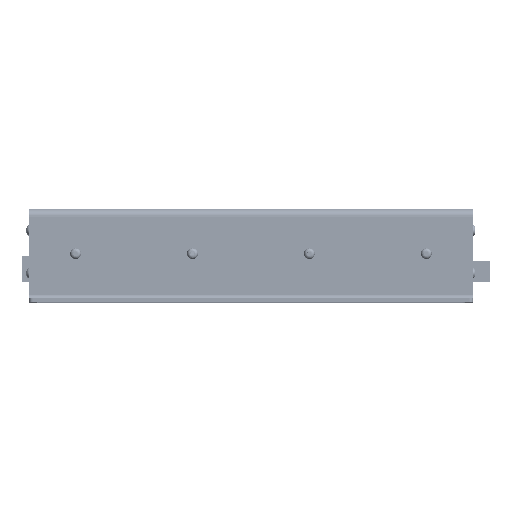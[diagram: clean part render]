
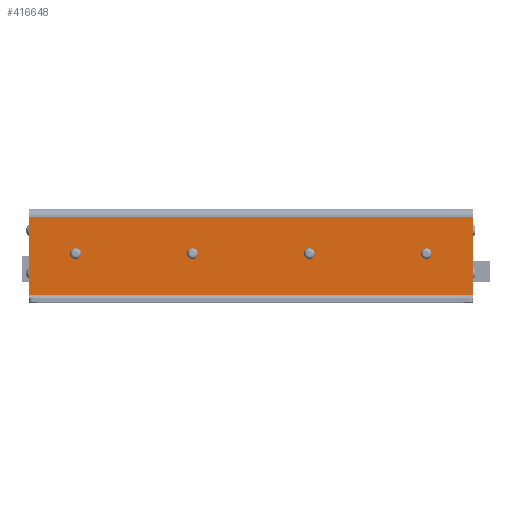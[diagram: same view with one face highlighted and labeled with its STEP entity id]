
A CAD part, top view. The second image highlights one B-rep face of the part: STEP entity #416648.
In plain terms, the highlighted planar face has unit normal (0, 0, 1).
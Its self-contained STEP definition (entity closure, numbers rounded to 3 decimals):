
#1815 = VERTEX_POINT ( 'NONE', #254683 ) ;
#4690 = EDGE_CURVE ( 'NONE', #171025, #122350, #275680, .T. ) ;
#11469 = FACE_BOUND ( 'NONE', #69404, .T. ) ;
#12023 = VECTOR ( 'NONE', #50916, 1000. ) ;
#12060 = FACE_OUTER_BOUND ( 'NONE', #216137, .T. ) ;
#28773 = AXIS2_PLACEMENT_3D ( 'NONE', #102801, #65374, #493511 ) ;
#32051 = DIRECTION ( 'NONE',  ( 0., 0., -1. ) ) ;
#47716 = EDGE_CURVE ( 'NONE', #289298, #122350, #200852, .T. ) ;
#47808 = EDGE_CURVE ( 'NONE', #449049, #289298, #78868, .T. ) ;
#48344 = DIRECTION ( 'NONE',  ( -1., 0., 0. ) ) ;
#50916 = DIRECTION ( 'NONE',  ( -1., 0., 0. ) ) ;
#58314 = EDGE_CURVE ( 'NONE', #482984, #308658, #279756, .T. ) ;
#65374 = DIRECTION ( 'NONE',  ( 0., 0., -1. ) ) ;
#69404 = EDGE_LOOP ( 'NONE', ( #252004, #407421 ) ) ;
#71451 = AXIS2_PLACEMENT_3D ( 'NONE', #364969, #478842, #285196 ) ;
#73041 = CARTESIAN_POINT ( 'NONE',  ( -88.25, -23., 86.5 ) ) ;
#73707 = CARTESIAN_POINT ( 'NONE',  ( -28.25, -23., 86.5 ) ) ;
#78868 = LINE ( 'NONE', #438346, #12023 ) ;
#95356 = CARTESIAN_POINT ( 'NONE',  ( -30., -23., 86.5 ) ) ;
#102801 = CARTESIAN_POINT ( 'NONE',  ( -90., -23., 86.5 ) ) ;
#106444 = AXIS2_PLACEMENT_3D ( 'NONE', #292268, #353032, #242552 ) ;
#111272 = CARTESIAN_POINT ( 'NONE',  ( -114., -44., 86.5 ) ) ;
#112464 = DIRECTION ( 'NONE',  ( 0., 0., 1. ) ) ;
#113128 = AXIS2_PLACEMENT_3D ( 'NONE', #207817, #331671, #175424 ) ;
#122350 = VERTEX_POINT ( 'NONE', #134757 ) ;
#131164 = CIRCLE ( 'NONE', #28773, 1.75 ) ;
#133970 = ORIENTED_EDGE ( 'NONE', *, *, #47808, .F. ) ;
#134757 = CARTESIAN_POINT ( 'NONE',  ( -114., -4., 86.5 ) ) ;
#137089 = ORIENTED_EDGE ( 'NONE', *, *, #188359, .F. ) ;
#139048 = EDGE_CURVE ( 'NONE', #441286, #1815, #310114, .T. ) ;
#150129 = CARTESIAN_POINT ( 'NONE',  ( 30., -23., 86.5 ) ) ;
#152916 = CARTESIAN_POINT ( 'NONE',  ( -31.75, -23., 86.5 ) ) ;
#153205 = AXIS2_PLACEMENT_3D ( 'NONE', #150129, #308024, #267313 ) ;
#153503 = LINE ( 'NONE', #501001, #403090 ) ;
#164284 = FACE_BOUND ( 'NONE', #330906, .T. ) ;
#165647 = CARTESIAN_POINT ( 'NONE',  ( 0., -4., 86.5 ) ) ;
#171025 = VERTEX_POINT ( 'NONE', #409149 ) ;
#175424 = DIRECTION ( 'NONE',  ( -1., 0., 0. ) ) ;
#183172 = CARTESIAN_POINT ( 'NONE',  ( 91.75, -23., 86.5 ) ) ;
#188359 = EDGE_CURVE ( 'NONE', #171025, #449049, #153503, .T. ) ;
#190690 = CIRCLE ( 'NONE', #71451, 1.75 ) ;
#190735 = VERTEX_POINT ( 'NONE', #249815 ) ;
#194643 = AXIS2_PLACEMENT_3D ( 'NONE', #500857, #32051, #417786 ) ;
#200852 = LINE ( 'NONE', #282066, #279793 ) ;
#206006 = CARTESIAN_POINT ( 'NONE',  ( 114., -44., 86.5 ) ) ;
#207301 = DIRECTION ( 'NONE',  ( 0., 1., 0. ) ) ;
#207817 = CARTESIAN_POINT ( 'NONE',  ( 90., -23., 86.5 ) ) ;
#214282 = DIRECTION ( 'NONE',  ( -1., 0., 0. ) ) ;
#216137 = EDGE_LOOP ( 'NONE', ( #137089, #345818, #231096, #133970 ) ) ;
#218872 = FACE_BOUND ( 'NONE', #269924, .T. ) ;
#226949 = VECTOR ( 'NONE', #48344, 1000. ) ;
#227014 = ORIENTED_EDGE ( 'NONE', *, *, #58314, .T. ) ;
#229274 = DIRECTION ( 'NONE',  ( 0., -1., 0. ) ) ;
#231096 = ORIENTED_EDGE ( 'NONE', *, *, #47716, .F. ) ;
#234411 = EDGE_CURVE ( 'NONE', #272015, #430588, #316264, .T. ) ;
#239511 = EDGE_CURVE ( 'NONE', #1815, #441286, #359455, .T. ) ;
#239684 = EDGE_LOOP ( 'NONE', ( #492258, #260579 ) ) ;
#241935 = AXIS2_PLACEMENT_3D ( 'NONE', #318507, #439136, #279496 ) ;
#242552 = DIRECTION ( 'NONE',  ( -1., 0., 0. ) ) ;
#247579 = DIRECTION ( 'NONE',  ( 0., -1., 0. ) ) ;
#249815 = CARTESIAN_POINT ( 'NONE',  ( 28.25, -23., 86.5 ) ) ;
#252004 = ORIENTED_EDGE ( 'NONE', *, *, #234411, .T. ) ;
#252953 = EDGE_CURVE ( 'NONE', #308658, #482984, #190690, .T. ) ;
#254683 = CARTESIAN_POINT ( 'NONE',  ( 88.25, -23., 86.5 ) ) ;
#254987 = DIRECTION ( 'NONE',  ( 0., 0., -1. ) ) ;
#260579 = ORIENTED_EDGE ( 'NONE', *, *, #438642, .T. ) ;
#267313 = DIRECTION ( 'NONE',  ( -1., 0., 0. ) ) ;
#269924 = EDGE_LOOP ( 'NONE', ( #358345, #227014 ) ) ;
#272015 = VERTEX_POINT ( 'NONE', #73041 ) ;
#275680 = LINE ( 'NONE', #165647, #226949 ) ;
#279496 = DIRECTION ( 'NONE',  ( -1., 0., 0. ) ) ;
#279756 = CIRCLE ( 'NONE', #403821, 1.75 ) ;
#279793 = VECTOR ( 'NONE', #207301, 1000. ) ;
#279820 = FACE_BOUND ( 'NONE', #239684, .T. ) ;
#282066 = CARTESIAN_POINT ( 'NONE',  ( -114., -2., 86.5 ) ) ;
#285196 = DIRECTION ( 'NONE',  ( -1., 0., 0. ) ) ;
#289298 = VERTEX_POINT ( 'NONE', #111272 ) ;
#292268 = CARTESIAN_POINT ( 'NONE',  ( 30., -23., 86.5 ) ) ;
#294297 = ORIENTED_EDGE ( 'NONE', *, *, #139048, .T. ) ;
#308024 = DIRECTION ( 'NONE',  ( 0., 0., -1. ) ) ;
#308658 = VERTEX_POINT ( 'NONE', #73707 ) ;
#310114 = CIRCLE ( 'NONE', #194643, 1.75 ) ;
#316264 = CIRCLE ( 'NONE', #241935, 1.75 ) ;
#318507 = CARTESIAN_POINT ( 'NONE',  ( -90., -23., 86.5 ) ) ;
#330906 = EDGE_LOOP ( 'NONE', ( #294297, #487226 ) ) ;
#331671 = DIRECTION ( 'NONE',  ( 0., 0., -1. ) ) ;
#336138 = CARTESIAN_POINT ( 'NONE',  ( 31.75, -23., 86.5 ) ) ;
#336658 = EDGE_CURVE ( 'NONE', #430588, #272015, #131164, .T. ) ;
#345818 = ORIENTED_EDGE ( 'NONE', *, *, #4690, .T. ) ;
#353032 = DIRECTION ( 'NONE',  ( 0., 0., -1. ) ) ;
#358345 = ORIENTED_EDGE ( 'NONE', *, *, #252953, .T. ) ;
#359455 = CIRCLE ( 'NONE', #113128, 1.75 ) ;
#364969 = CARTESIAN_POINT ( 'NONE',  ( -30., -23., 86.5 ) ) ;
#372952 = VERTEX_POINT ( 'NONE', #336138 ) ;
#383342 = CIRCLE ( 'NONE', #153205, 1.75 ) ;
#384281 = CARTESIAN_POINT ( 'NONE',  ( 0., 0., 86.5 ) ) ;
#403090 = VECTOR ( 'NONE', #229274, 1000. ) ;
#403821 = AXIS2_PLACEMENT_3D ( 'NONE', #95356, #254987, #214282 ) ;
#407421 = ORIENTED_EDGE ( 'NONE', *, *, #336658, .T. ) ;
#409149 = CARTESIAN_POINT ( 'NONE',  ( 114., -4., 86.5 ) ) ;
#416648 = ADVANCED_FACE ( 'NONE', ( #11469, #218872, #279820, #164284, #12060 ), #462384, .T. ) ;
#417786 = DIRECTION ( 'NONE',  ( -1., 0., 0. ) ) ;
#418566 = CARTESIAN_POINT ( 'NONE',  ( -91.75, -23., 86.5 ) ) ;
#422612 = EDGE_CURVE ( 'NONE', #372952, #190735, #499523, .T. ) ;
#430588 = VERTEX_POINT ( 'NONE', #418566 ) ;
#438346 = CARTESIAN_POINT ( 'NONE',  ( -114., -44., 86.5 ) ) ;
#438642 = EDGE_CURVE ( 'NONE', #190735, #372952, #383342, .T. ) ;
#439136 = DIRECTION ( 'NONE',  ( 0., 0., -1. ) ) ;
#441286 = VERTEX_POINT ( 'NONE', #183172 ) ;
#448763 = AXIS2_PLACEMENT_3D ( 'NONE', #384281, #112464, #247579 ) ;
#449049 = VERTEX_POINT ( 'NONE', #206006 ) ;
#462384 = PLANE ( 'NONE',  #448763 ) ;
#478842 = DIRECTION ( 'NONE',  ( 0., 0., -1. ) ) ;
#482984 = VERTEX_POINT ( 'NONE', #152916 ) ;
#487226 = ORIENTED_EDGE ( 'NONE', *, *, #239511, .T. ) ;
#492258 = ORIENTED_EDGE ( 'NONE', *, *, #422612, .T. ) ;
#493511 = DIRECTION ( 'NONE',  ( -1., 0., 0. ) ) ;
#499523 = CIRCLE ( 'NONE', #106444, 1.75 ) ;
#500857 = CARTESIAN_POINT ( 'NONE',  ( 90., -23., 86.5 ) ) ;
#501001 = CARTESIAN_POINT ( 'NONE',  ( 114., -44., 86.5 ) ) ;
